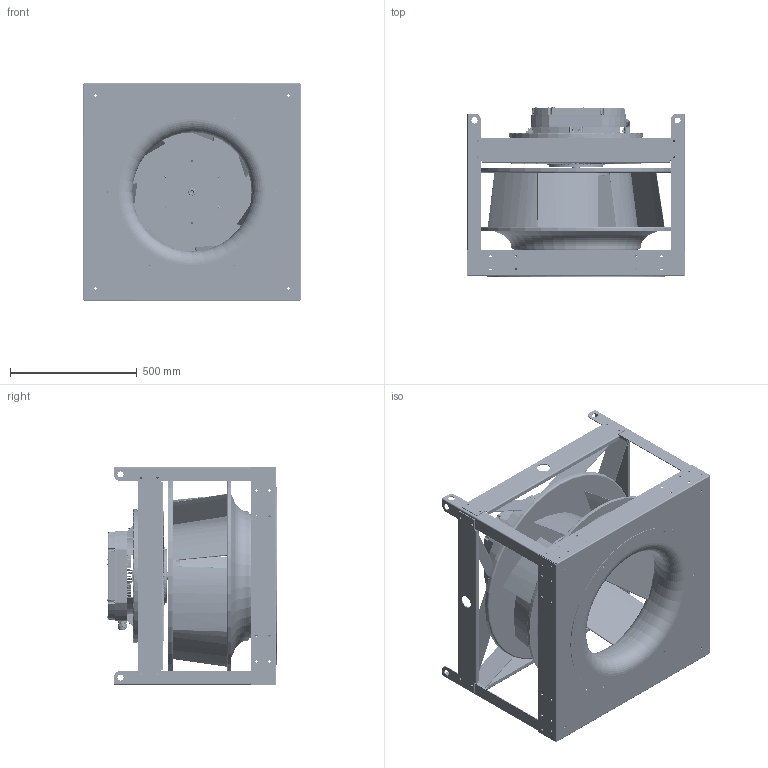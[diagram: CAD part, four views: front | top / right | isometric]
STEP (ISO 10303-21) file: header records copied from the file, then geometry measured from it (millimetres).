
FILE_DESCRIPTION (( 'STEP AP214' ), '1' );
FILE_NAME ('655789.STEP', '2026-06-10T20:07:24', ( '' ), ( '' ), 'SwSTEP 2.0', 'SolidWorks 2023', '' );
FILE_SCHEMA (( 'AUTOMOTIVE_DESIGN' ));
Length unit declared in the file: inch
Products named in the file (8): 651552_651552; 768040CS_768040CS; SXPI STRAP_651554; 655789; 651553_651553; 925959CS_925959CS; 651551_651551; 768052CS_768052CS
Assembly tree (16 placements, depth 2):
  655789
    651551_651551
    651552_651552  x4
    651553_651553  x4
    SXPI STRAP_651554  x4
    925959CS_925959CS
    768040CS_768040CS
    768052CS_768052CS
Bounding box: 864.96 x 670.48 x 864.96 mm (x, y, z)
Volume: 14716952.6 mm3; surface area: 9541794.5 mm2
Topology: 26 solids, 318 shells, 3980 faces, 12733 edges, 8763 vertices
Faces by surface type: cylinder 1135, plane 1129, bspline 1013, cone 329, torus 306, sphere 68
Full cylindrical faces by diameter (mm): 2.9 x2, 5.105 x16, 5.156 x6, 6 x37, 7 x5, 7.137 x48, 7.544 x1, 7.937 x3, 7.938 x1, 8.5 x1, 8.738 x87, 9 x4, 9.73 x8, 10 x8, 10.1 x1, 11.8 x16, 12.5 x1, 12.6 x1, 13 x15, 14 x1, 17.462 x2, 17.463 x2, 23.5 x1, 23.92 x1, 24.282 x1, 25.4 x8, 25.5 x3, 26.2 x1, 26.35 x1, 26.416 x2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
Entity records: 271817 total; most frequent: CARTESIAN_POINT 181407, ORIENTED_EDGE 18038, DIRECTION 16103, EDGE_CURVE 11407, VERTEX_POINT 8135, AXIS2_PLACEMENT_3D 6483, EDGE_LOOP 4581, B_SPLINE_CURVE_WITH_KNOTS 3905
